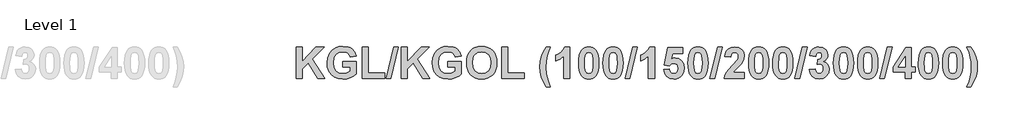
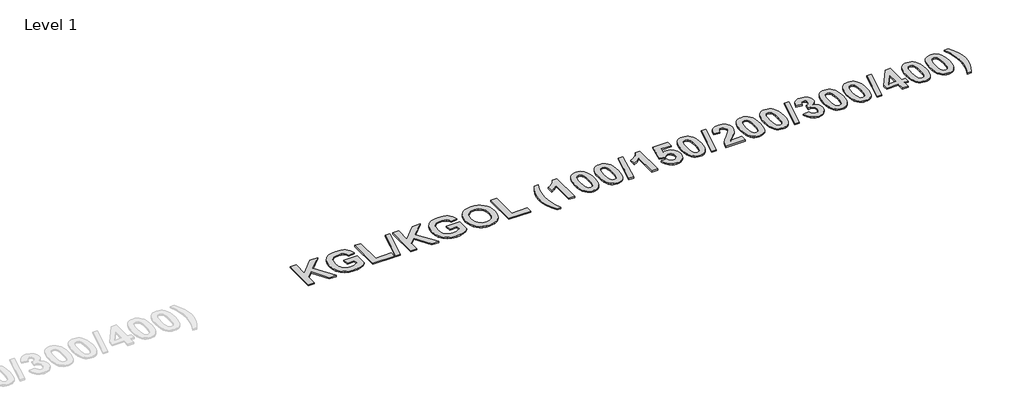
# One storey, part 19 of 42: 1 proxy.
"""IFC4 building model written with IfcOpenShell, lengths in millimetres."""

from ifc_helpers import new_model, si_unit, origin, origin_with_axes, place, context, project, spatial, polyline, outline, extrude, element, save

model = new_model("IFC4")

# Units and contexts
model_context = context("Model", 3, world=origin())
ifc_project = project(units=[si_unit("LENGTHUNIT", "METRE", prefix="MILLI")], contexts=[model_context])

# Site, building, storey
site = spatial("IfcSite", under=ifc_project)
building = spatial("IfcBuilding", under=site)
storey = spatial("IfcBuildingStorey", under=building, Name="Level 1", Elevation=0.0)

# Proxy
placement = place(None, origin())
element("IfcBuildingElementProxy", 1, Name="300mm Arial 2", ObjectType="300mm Arial 2", at=placement, inside=storey, context=model_context, shape_type="SweptSolid", body=[
    extrude(outline(polyline([(-3414.3228423, 4366.2760859), (-3414.3228423, 4621.3409359), (-3365.7390614, 4621.3409359), (-3365.7390614, 4505.0688143), (-3256.299034, 4621.3409359), (-3189.6228554, 4621.3409359), (-3286.157816, 4523.9203335), (-3185.574207, 4366.2760859), (-3242.381805, 4366.2760859), (-3317.7246216, 4491.9739671), (-3365.7390614, 4443.4534463), (-3365.7390614, 4366.2760859), (-3414.3228423, 4366.2760859)])), origin_with_axes(), (0.0, 0.0, 1.0), 10.0),
    extrude(outline(polyline([(-3041.8471884, 4459.3949994), (-3041.8471884, 4503.930132), (-2932.5336812, 4503.930132), (-2932.5336812, 4402.2078406), (-2952.0494318, 4387.2863571), (-2978.7135772, 4374.2784926), (-3009.1417004, 4365.2402013), (-3039.9493844, 4362.2274375), (-3076.7825959, 4366.4184212), (-3108.586627, 4378.9913724), (-3134.2386103, 4399.3532272), (-3152.6156785, 4426.9109219), (-3163.6703865, 4459.434537), (-3167.3552891, 4494.6941528), (-3163.188028, 4532.2153182), (-3150.6862445, 4565.3240895), (-3130.1504243, 4592.6287438), (-3101.8810531, 4612.737558), (-3074.394526, 4622.2265778), (-3040.8982864, 4625.3895843), (-2998.6958712, 4620.2813287), (-2981.479231, 4613.8960092), (-2966.8523025, 4604.9565619), (-2944.9405745, 4580.6172263), (-2932.5336812, 4548.4652645), (-2981.1174622, 4540.3679677), (-2989.2938342, 4557.1714401), (-3002.4361265, 4570.0053393), (-3020.006628, 4578.1421737), (-3041.4676276, 4580.8544518), (-3073.2716587, 4575.5564158), (-3086.4574423, 4568.9338708), (-3097.8324047, 4559.6623078), (-3106.9932625, 4547.7812643), (-3113.5367323, 4533.330278), (-3118.7715082, 4496.718477), (-3113.5683624, 4457.3627677), (-3107.0644301, 4441.9015962), (-3097.9589249, 4429.2515468), (-3086.7421129, 4419.4126195), (-3073.90426, 4412.3848142), (-3043.3654315, 4406.7625701), (-3009.932452, 4412.9304329), (-2981.1174622, 4427.891454), (-2981.1174622, 4459.3949994), (-3041.8471884, 4459.3949994)])), origin_with_axes(), (0.0, 0.0, 1.0), 10.0),
    extrude(outline(polyline([(-2883.9499003, 4366.2760859), (-2883.9499003, 4621.3409359), (-2835.3661193, 4621.3409359), (-2835.3661193, 4410.8112185), (-2705.8093701, 4410.8112185), (-2705.8093701, 4366.2760859), (-2883.9499003, 4366.2760859)])), origin_with_axes(), (0.0, 0.0, 1.0), 10.0),
    extrude(outline(polyline([(-2694.5490667, 4366.2760859), (-2633.8193405, 4621.3409359), (-2596.495863, 4621.3409359), (-2657.2255892, 4366.2760859), (-2694.5490667, 4366.2760859)])), origin_with_axes(), (0.0, 0.0, 1.0), 10.0),
    extrude(outline(polyline([(-2572.2039725, 4366.2760859), (-2572.2039725, 4621.3409359), (-2523.6201916, 4621.3409359), (-2523.6201916, 4505.0688143), (-2414.1801642, 4621.3409359), (-2347.5039856, 4621.3409359), (-2444.0389462, 4523.9203335), (-2343.4553372, 4366.2760859), (-2400.2629352, 4366.2760859), (-2475.6057518, 4491.9739671), (-2523.6201916, 4443.4534463), (-2523.6201916, 4366.2760859), (-2572.2039725, 4366.2760859)])), origin_with_axes(), (0.0, 0.0, 1.0), 10.0),
    extrude(outline(polyline([(-2199.7283186, 4459.3949994), (-2199.7283186, 4503.930132), (-2090.4148114, 4503.930132), (-2090.4148114, 4402.2078406), (-2109.930562, 4387.2863571), (-2136.5947074, 4374.2784926), (-2167.0228306, 4365.2402013), (-2197.8305146, 4362.2274375), (-2234.6637261, 4366.4184212), (-2266.4677572, 4378.9913724), (-2292.1197405, 4399.3532272), (-2310.4968087, 4426.9109219), (-2321.5515167, 4459.434537), (-2325.2364193, 4494.6941528), (-2321.0691582, 4532.2153182), (-2308.5673747, 4565.3240895), (-2288.0315545, 4592.6287438), (-2259.7621833, 4612.737558), (-2232.2756562, 4622.2265778), (-2198.7794166, 4625.3895843), (-2156.5770014, 4620.2813287), (-2139.3603612, 4613.8960092), (-2124.7334327, 4604.9565619), (-2102.8217047, 4580.6172263), (-2090.4148114, 4548.4652645), (-2138.9985924, 4540.3679677), (-2147.1749644, 4557.1714401), (-2160.3172567, 4570.0053393), (-2177.8877582, 4578.1421737), (-2199.3487578, 4580.8544518), (-2231.1527888, 4575.5564158), (-2244.3385725, 4568.9338708), (-2255.7135349, 4559.6623078), (-2264.8743927, 4547.7812643), (-2271.4178625, 4533.330278), (-2276.6526384, 4496.718477), (-2271.4494926, 4457.3627677), (-2264.9455603, 4441.9015962), (-2255.8400551, 4429.2515468), (-2244.6232431, 4419.4126195), (-2231.7853902, 4412.3848142), (-2201.2465617, 4406.7625701), (-2167.8135822, 4412.9304329), (-2138.9985924, 4427.891454), (-2138.9985924, 4459.3949994), (-2199.7283186, 4459.3949994)])), origin_with_axes(), (0.0, 0.0, 1.0), 10.0),
    extrude(outline(polyline([(-2049.9283273, 4492.2270076), (-2047.0658063, 4528.000612), (-2038.4782435, 4557.5114633), (-2028.380345, 4575.9438841), (-2015.1668851, 4592.3994258), (-1999.6918754, 4605.8659263), (-1982.8093278, 4615.3312234), (-1957.6001654, 4622.8749941), (-1928.7851756, 4625.3895843), (-1902.4926834, 4623.2090867), (-1878.9678221, 4616.6675937), (-1858.2105914, 4605.7651054), (-1840.2209915, 4590.5016218), (-1825.6909301, 4571.3555477), (-1815.3123148, 4548.8052877), (-1809.0851456, 4522.8508419), (-1807.0094225, 4493.4922103), (-1809.0693306, 4464.3332434), (-1815.2490547, 4438.5349711), (-1825.5485948, 4416.0973932), (-1839.967951, 4397.0205098), (-1857.8389382, 4381.7985407), (-1878.4933711, 4370.9257056), (-1901.9312498, 4364.4020045), (-1928.1525743, 4362.2274375), (-1954.6506618, 4364.3921201), (-1978.2862284, 4370.886168), (-1999.0592741, 4381.7095811), (-2016.9697988, 4396.8623595), (-2031.389155, 4415.8107457), (-2041.6886952, 4438.0209825), (-2047.8684193, 4463.4930698), (-2049.9283273, 4492.2270076)]), holes=[polyline([(-2001.3445463, 4493.9982913), (-1996.1809381, 4456.2478079), (-1989.7264278, 4441.2749255), (-1980.6901134, 4428.9036161), (-1957.2443272, 4412.2978316), (-1928.2158344, 4406.7625701), (-1899.2506017, 4412.258294), (-1875.9945959, 4428.7454657), (-1867.0689867, 4441.1108446), (-1860.6935516, 4456.2240853), (-1855.5932035, 4494.6941528), (-1860.5591238, 4532.5869715), (-1866.7665242, 4547.4056573), (-1875.4568848, 4559.4725274), (-1898.5784628, 4575.5089707), (-1928.2158344, 4580.8544518), (-1957.9164661, 4575.4457106), (-1981.2278245, 4559.2194868), (-1990.0288903, 4547.0300503), (-1996.3153659, 4532.0967055), (-2001.3445463, 4493.9982913)])]), origin_with_axes(), (0.0, 0.0, 1.0), 10.0),
    extrude(outline(polyline([(-1766.5229384, 4366.2760859), (-1766.5229384, 4621.3409359), (-1717.9391575, 4621.3409359), (-1717.9391575, 4410.8112185), (-1588.3824083, 4410.8112185), (-1588.3824083, 4366.2760859), (-1766.5229384, 4366.2760859)])), origin_with_axes(), (0.0, 0.0, 1.0), 10.0),
    extrude(outline(polyline([(-1377.8526908, 4297.4490629), (-1410.2418781, 4297.4490629), (-1432.9127277, 4337.1210729), (-1449.4315295, 4378.327141), (-1459.513613, 4419.6280993), (-1462.8743075, 4459.5847798), (-1458.7623989, 4506.9824333), (-1446.4266733, 4551.7547913), (-1430.2320796, 4588.0344767), (-1410.2418781, 4621.3409359), (-1377.8526908, 4621.3409359), (-1395.4152848, 4574.1014328), (-1406.4779003, 4534.4847754), (-1412.33737, 4497.6041188), (-1414.2905265, 4458.5726177), (-1409.6092768, 4401.92317), (-1396.7674701, 4346.8552256), (-1377.8526908, 4297.4490629)])), origin_with_axes(), (0.0, 0.0, 1.0), 10.0),
    extrude(outline(polyline([(-1224.0040511, 4366.2760859), (-1272.5878321, 4366.2760859), (-1272.5878321, 4548.5917848), (-1300.6437004, 4524.7110851), (-1333.3175583, 4507.9787804), (-1333.3175583, 4556.5625613), (-1313.8492528, 4565.6482977), (-1292.767814, 4580.3800008), (-1274.3116707, 4599.3975778), (-1262.7192516, 4621.3409359), (-1224.0040511, 4621.3409359), (-1224.0040511, 4366.2760859)])), origin_with_axes(), (0.0, 0.0, 1.0), 10.0),
    extrude(outline(polyline([(-1070.1554115, 4621.3409359), (-1053.0237771, 4619.6961725), (-1037.8769294, 4614.7618822), (-1024.7148683, 4606.5380652), (-1013.5375938, 4595.0247212), (-1002.8822154, 4576.8967398), (-995.2712309, 4553.6367802), (-990.7046401, 4525.2448425), (-989.1824432, 4491.7209266), (-990.7125476, 4458.2286407), (-995.3028609, 4429.8050729), (-1002.9533831, 4406.4502232), (-1013.6641141, 4388.1640914), (-1024.7860359, 4376.8168053), (-1037.9085595, 4368.711601), (-1053.0316846, 4363.8484784), (-1070.1554115, 4362.2274375), (-1087.462988, 4364.0066287), (-1103.0111422, 4369.3442023), (-1116.799874, 4378.2401583), (-1128.8291834, 4390.6944967), (-1138.5850818, 4407.7154258), (-1145.5535806, 4430.311154), (-1149.7346799, 4458.4816813), (-1151.1283797, 4492.2270076), (-1149.5982753, 4525.5532356), (-1145.007962, 4553.8581907), (-1137.3574398, 4577.1418728), (-1126.6467088, 4595.404282), (-1115.524787, 4606.7515681), (-1102.4022635, 4614.8567724), (-1087.2791383, 4619.7198951), (-1070.1554115, 4621.3409359)]), holes=[polyline([(-1070.1554115, 4576.8058034), (-1086.3500051, 4571.4603223), (-1092.6760182, 4563.9877192), (-1097.357268, 4552.2608724), (-1101.2477661, 4528.1113172), (-1102.5445988, 4491.7209266), (-1101.3901014, 4455.8128945), (-1097.9266092, 4433.2369351), (-1092.6997408, 4419.9839375), (-1086.2551149, 4412.044791), (-1070.1554115, 4406.7625701), (-1053.9608178, 4412.1080512), (-1047.6348047, 4419.5806542), (-1042.9535549, 4431.3075011), (-1039.0630568, 4455.330536), (-1037.7662242, 4491.7209266), (-1038.9207216, 4527.5894211), (-1042.3842138, 4550.173288), (-1047.6110821, 4563.4658232), (-1054.055708, 4571.4603223), (-1070.1554115, 4576.8058034)])]), origin_with_axes(), (0.0, 0.0, 1.0), 10.0),
    extrude(outline(polyline([(-875.8202877, 4621.3409359), (-858.6886533, 4619.6961725), (-843.5418056, 4614.7618822), (-830.3797445, 4606.5380652), (-819.20247, 4595.0247212), (-808.5470916, 4576.8967398), (-800.9361071, 4553.6367802), (-796.3695163, 4525.2448425), (-794.8473194, 4491.7209266), (-796.3774238, 4458.2286407), (-800.9677371, 4429.8050729), (-808.6182593, 4406.4502232), (-819.3289903, 4388.1640914), (-830.4509121, 4376.8168053), (-843.5734356, 4368.711601), (-858.6965608, 4363.8484784), (-875.8202877, 4362.2274375), (-893.1278642, 4364.0066287), (-908.6760184, 4369.3442023), (-922.4647502, 4378.2401583), (-934.4940596, 4390.6944967), (-944.249958, 4407.7154258), (-951.2184568, 4430.311154), (-955.3995561, 4458.4816813), (-956.7932559, 4492.2270076), (-955.2631515, 4525.5532356), (-950.6728382, 4553.8581907), (-943.022316, 4577.1418728), (-932.311585, 4595.404282), (-921.1896632, 4606.7515681), (-908.0671397, 4614.8567724), (-892.9440145, 4619.7198951), (-875.8202877, 4621.3409359)]), holes=[polyline([(-875.8202877, 4576.8058034), (-892.0148813, 4571.4603223), (-898.3408944, 4563.9877192), (-903.0221442, 4552.2608724), (-906.9126423, 4528.1113172), (-908.209475, 4491.7209266), (-907.0549776, 4455.8128945), (-903.5914854, 4433.2369351), (-898.364617, 4419.9839375), (-891.9199911, 4412.044791), (-875.8202877, 4406.7625701), (-859.625694, 4412.1080512), (-853.2996809, 4419.5806542), (-848.6184311, 4431.3075011), (-844.727933, 4455.330536), (-843.4311004, 4491.7209266), (-844.5855978, 4527.5894211), (-848.0490899, 4550.173288), (-853.2759583, 4563.4658232), (-859.7205842, 4571.4603223), (-875.8202877, 4576.8058034)])]), origin_with_axes(), (0.0, 0.0, 1.0), 10.0),
    extrude(outline(polyline([(-779.5383676, 4366.2760859), (-718.8086414, 4621.3409359), (-681.4851639, 4621.3409359), (-742.21489, 4366.2760859), (-779.5383676, 4366.2760859)])), origin_with_axes(), (0.0, 0.0, 1.0), 10.0),
    extrude(outline(polyline([(-543.8311178, 4366.2760859), (-592.4148988, 4366.2760859), (-592.4148988, 4548.5917848), (-620.4707671, 4524.7110851), (-653.144625, 4507.9787804), (-653.144625, 4556.5625613), (-633.6763195, 4565.6482977), (-612.5948807, 4580.3800008), (-594.1387374, 4599.3975778), (-582.5463183, 4621.3409359), (-543.8311178, 4621.3409359), (-543.8311178, 4366.2760859)])), origin_with_axes(), (0.0, 0.0, 1.0), 10.0),
    extrude(outline(polyline([(-470.9554464, 4438.0763351), (-426.4203139, 4443.2004058), (-422.2767753, 4428.1286795), (-414.0213281, 4416.5678904), (-402.919175, 4409.2139001), (-390.2355187, 4406.7625701), (-376.0415267, 4409.364143), (-364.2039746, 4417.1688617), (-356.2094755, 4430.2083563), (-353.5446424, 4448.5142568), (-356.0196951, 4465.6735675), (-363.444853, 4477.9302179), (-374.8395842, 4485.2842082), (-389.2233566, 4487.7355383), (-408.0432457, 4482.6747278), (-424.7755504, 4467.4922962), (-466.906798, 4473.7550493), (-438.5662591, 4617.2922875), (-317.1068067, 4617.2922875), (-317.1068067, 4568.7085066), (-399.2817175, 4568.7085066), (-409.0870378, 4522.3388302), (-393.6041207, 4529.7877107), (-377.7732728, 4532.2706708), (-349.6541444, 4526.5219064), (-326.1530055, 4509.2756131), (-310.2588975, 4482.8566007), (-304.9608615, 4449.589679), (-309.3732557, 4420.6639839), (-322.6104382, 4394.9961856), (-335.8278519, 4380.6598583), (-351.3779829, 4370.4196245), (-369.2608313, 4364.2754843), (-389.4763971, 4362.2274375), (-420.481769, 4367.3673232), (-445.1769428, 4382.7869802), (-462.3916061, 4406.8890903), (-470.9554464, 4438.0763351)])), origin_with_axes(), (0.0, 0.0, 1.0), 10.0),
    extrude(outline(polyline([(-195.6473543, 4621.3409359), (-178.51572, 4619.6961725), (-163.3688723, 4614.7618822), (-150.2068112, 4606.5380652), (-139.0295367, 4595.0247212), (-128.3741583, 4576.8967398), (-120.7631738, 4553.6367802), (-116.196583, 4525.2448425), (-114.6743861, 4491.7209266), (-116.2044905, 4458.2286407), (-120.7948038, 4429.8050729), (-128.445326, 4406.4502232), (-139.156057, 4388.1640914), (-150.2779788, 4376.8168053), (-163.4005023, 4368.711601), (-178.5236275, 4363.8484784), (-195.6473543, 4362.2274375), (-212.9549309, 4364.0066287), (-228.5030851, 4369.3442023), (-242.2918169, 4378.2401583), (-254.3211263, 4390.6944967), (-264.0770247, 4407.7154258), (-271.0455235, 4430.311154), (-275.2266228, 4458.4816813), (-276.6203226, 4492.2270076), (-275.0902182, 4525.5532356), (-270.4999049, 4553.8581907), (-262.8493827, 4577.1418728), (-252.1386517, 4595.404282), (-241.0167299, 4606.7515681), (-227.8942064, 4614.8567724), (-212.7710812, 4619.7198951), (-195.6473543, 4621.3409359)]), holes=[polyline([(-195.6473543, 4576.8058034), (-211.841948, 4571.4603223), (-218.1679611, 4563.9877192), (-222.8492109, 4552.2608724), (-226.739709, 4528.1113172), (-228.0365416, 4491.7209266), (-226.8820443, 4455.8128945), (-223.4185521, 4433.2369351), (-218.1916837, 4419.9839375), (-211.7470578, 4412.044791), (-195.6473543, 4406.7625701), (-179.4527607, 4412.1080512), (-173.1267476, 4419.5806542), (-168.4454978, 4431.3075011), (-164.5549997, 4455.330536), (-163.258167, 4491.7209266), (-164.4126644, 4527.5894211), (-167.8761566, 4550.173288), (-173.103025, 4563.4658232), (-179.5476509, 4571.4603223), (-195.6473543, 4576.8058034)])]), origin_with_axes(), (0.0, 0.0, 1.0), 10.0),
    extrude(outline(polyline([(-99.3654343, 4366.2760859), (-38.6357081, 4621.3409359), (-1.3122305, 4621.3409359), (-62.0419567, 4366.2760859), (-99.3654343, 4366.2760859)])), origin_with_axes(), (0.0, 0.0, 1.0), 10.0),
    extrude(outline(polyline([(176.8282996, 4414.8598669), (176.8282996, 4366.2760859), (14.8823631, 4366.2760859), (20.0538788, 4390.7814793), (30.3810953, 4413.942595), (49.5647302, 4440.1243819), (81.3055011, 4473.6917891), (118.8820192, 4514.4313138), (125.9038938, 4529.1392943), (128.2445187, 4543.6574945), (126.2755471, 4557.8040414), (120.3686323, 4568.2340556), (110.9982253, 4574.6628664), (98.6387771, 4576.8058034), (86.3663116, 4574.6944965), (76.8772919, 4568.3605758), (70.4880186, 4557.13981), (67.5147925, 4540.3679677), (18.9310115, 4544.7961769), (27.5343894, 4579.9450874), (35.1572352, 4593.1842468), (44.9941857, 4603.5332089), (69.6181918, 4616.8890042), (99.7141994, 4621.3409359), (131.8503461, 4616.3512931), (156.2687569, 4601.3823644), (171.6884139, 4578.9961854), (176.8282996, 4551.7547913), (171.1981479, 4519.6186446), (153.3587908, 4487.6722782), (123.1520781, 4455.7891719), (95.4125104, 4428.1444945), (86.3030515, 4414.8598669), (176.8282996, 4414.8598669)])), origin_with_axes(), (0.0, 0.0, 1.0), 10.0),
    extrude(outline(polyline([(290.1904552, 4621.3409359), (307.3220895, 4619.6961725), (322.4689372, 4614.7618822), (335.6309983, 4606.5380652), (346.8082728, 4595.0247212), (357.4636512, 4576.8967398), (365.0746358, 4553.6367802), (369.6412265, 4525.2448425), (371.1634234, 4491.7209266), (369.633319, 4458.2286407), (365.0430057, 4429.8050729), (357.3924835, 4406.4502232), (346.6817525, 4388.1640914), (335.5598307, 4376.8168053), (322.4373072, 4368.711601), (307.314182, 4363.8484784), (290.1904552, 4362.2274375), (272.8828786, 4364.0066287), (257.3347244, 4369.3442023), (243.5459926, 4378.2401583), (231.5166832, 4390.6944967), (221.7607848, 4407.7154258), (214.792286, 4430.311154), (210.6111867, 4458.4816813), (209.2174869, 4492.2270076), (210.7475913, 4525.5532356), (215.3379046, 4553.8581907), (222.9884268, 4577.1418728), (233.6991578, 4595.404282), (244.8210796, 4606.7515681), (257.9436031, 4614.8567724), (273.0667283, 4619.7198951), (290.1904552, 4621.3409359)]), holes=[polyline([(290.1904552, 4576.8058034), (273.9958615, 4571.4603223), (267.6698484, 4563.9877192), (262.9885986, 4552.2608724), (259.0981005, 4528.1113172), (257.8012679, 4491.7209266), (258.9557653, 4455.8128945), (262.4192574, 4433.2369351), (267.6461258, 4419.9839375), (274.0907517, 4412.044791), (290.1904552, 4406.7625701), (306.3850488, 4412.1080512), (312.7110619, 4419.5806542), (317.3923117, 4431.3075011), (321.2828098, 4455.330536), (322.5796425, 4491.7209266), (321.4251451, 4527.5894211), (317.9616529, 4550.173288), (312.7347845, 4563.4658232), (306.2901586, 4571.4603223), (290.1904552, 4576.8058034)])]), origin_with_axes(), (0.0, 0.0, 1.0), 10.0),
    extrude(outline(polyline([(484.525579, 4621.3409359), (501.6572133, 4619.6961725), (516.804061, 4614.7618822), (529.9661221, 4606.5380652), (541.1433966, 4595.0247212), (551.798775, 4576.8967398), (559.4097596, 4553.6367802), (563.9763503, 4525.2448425), (565.4985472, 4491.7209266), (563.9684428, 4458.2286407), (559.3781295, 4429.8050729), (551.7276073, 4406.4502232), (541.0168763, 4388.1640914), (529.8949545, 4376.8168053), (516.772431, 4368.711601), (501.6493058, 4363.8484784), (484.525579, 4362.2274375), (467.2180024, 4364.0066287), (451.6698482, 4369.3442023), (437.8811164, 4378.2401583), (425.851807, 4390.6944967), (416.0959086, 4407.7154258), (409.1274098, 4430.311154), (404.9463105, 4458.4816813), (403.5526107, 4492.2270076), (405.0827151, 4525.5532356), (409.6730284, 4553.8581907), (417.3235506, 4577.1418728), (428.0342816, 4595.404282), (439.1562034, 4606.7515681), (452.278727, 4614.8567724), (467.4018521, 4619.7198951), (484.525579, 4621.3409359)]), holes=[polyline([(484.525579, 4576.8058034), (468.3309853, 4571.4603223), (462.0049722, 4563.9877192), (457.3237224, 4552.2608724), (453.4332243, 4528.1113172), (452.1363917, 4491.7209266), (453.2908891, 4455.8128945), (456.7543813, 4433.2369351), (461.9812496, 4419.9839375), (468.4258755, 4412.044791), (484.525579, 4406.7625701), (500.7201726, 4412.1080512), (507.0461858, 4419.5806542), (511.7274355, 4431.3075011), (515.6179336, 4455.330536), (516.9147663, 4491.7209266), (515.7602689, 4527.5894211), (512.2967767, 4550.173288), (507.0699083, 4563.4658232), (500.6252824, 4571.4603223), (484.525579, 4576.8058034)])]), origin_with_axes(), (0.0, 0.0, 1.0), 10.0),
    extrude(outline(polyline([(580.807499, 4366.2760859), (641.5372252, 4621.3409359), (678.8607028, 4621.3409359), (618.1309766, 4366.2760859), (580.807499, 4366.2760859)])), origin_with_axes(), (0.0, 0.0, 1.0), 10.0),
    extrude(outline(polyline([(695.0552964, 4437.5702541), (743.6390774, 4443.2004058), (747.3872401, 4427.5751533), (754.5830801, 4416.1250695), (764.4358456, 4409.1031949), (776.1547849, 4406.7625701), (788.727736, 4409.4432181), (799.1182126, 4417.4851623), (806.0926421, 4430.066021), (808.417452, 4446.3634123), (806.29033, 4461.7830694), (799.9089643, 4473.628529), (790.4594821, 4481.1722997), (779.1280111, 4483.6868899), (759.833671, 4480.0810624), (764.0720998, 4520.1247256), (777.9023461, 4521.8643792), (788.0160596, 4528.0955022), (794.2076449, 4537.9640827), (796.2715067, 4550.616109), (794.729541, 4561.3624238), (790.1036439, 4569.6890386), (782.9157115, 4575.0266122), (773.6876398, 4576.8058034), (764.3014178, 4574.7419416), (756.3859938, 4568.5503562), (750.6214144, 4558.3891976), (747.6877258, 4544.4166161), (699.1039448, 4551.6915312), (704.6629289, 4573.4292939), (712.4834626, 4590.3118414), (723.2060549, 4603.2248158), (737.4712145, 4613.0538587), (754.4644674, 4619.2691666), (773.3713391, 4621.3409359), (804.0208728, 4615.600079), (816.8073269, 4608.4240078), (827.9015724, 4598.3775082), (840.6168589, 4578.3556766), (844.8552877, 4555.8666999), (842.5818767, 4539.921193), (835.7616438, 4525.6758021), (824.3945889, 4513.1305273), (808.4807121, 4502.2853685), (828.3443934, 4494.7336903), (843.7798654, 4481.4411552), (853.695891, 4463.5780756), (857.0012329, 4442.3147639), (851.1417632, 4411.5466175), (833.5633542, 4385.6653162), (821.1268077, 4375.4112443), (807.255047, 4368.0869072), (775.2058829, 4362.2274375), (744.9438176, 4367.4384908), (720.3277189, 4383.0716508), (703.1130556, 4407.1184083), (695.0552964, 4437.5702541)])), origin_with_axes(), (0.0, 0.0, 1.0), 10.0),
    extrude(outline(polyline([(970.3633885, 4621.3409359), (987.4950228, 4619.6961725), (1002.6418705, 4614.7618822), (1015.8039316, 4606.5380652), (1026.9812061, 4595.0247212), (1037.6365845, 4576.8967398), (1045.2475691, 4553.6367802), (1049.8141598, 4525.2448425), (1051.3363567, 4491.7209266), (1049.8062523, 4458.2286407), (1045.215939, 4429.8050729), (1037.5654168, 4406.4502232), (1026.8546858, 4388.1640914), (1015.732764, 4376.8168053), (1002.6102405, 4368.711601), (987.4871153, 4363.8484784), (970.3633885, 4362.2274375), (953.0558119, 4364.0066287), (937.5076577, 4369.3442023), (923.7189259, 4378.2401583), (911.6896165, 4390.6944967), (901.9337181, 4407.7154258), (894.9652193, 4430.311154), (890.78412, 4458.4816813), (889.3904202, 4492.2270076), (890.9205246, 4525.5532356), (895.5108379, 4553.8581907), (903.1613601, 4577.1418728), (913.8720911, 4595.404282), (924.9940129, 4606.7515681), (938.1165365, 4614.8567724), (953.2396616, 4619.7198951), (970.3633885, 4621.3409359)]), holes=[polyline([(970.3633885, 4576.8058034), (954.1687948, 4571.4603223), (947.8427817, 4563.9877192), (943.1615319, 4552.2608724), (939.2710339, 4528.1113172), (937.9742012, 4491.7209266), (939.1286986, 4455.8128945), (942.5921908, 4433.2369351), (947.8190591, 4419.9839375), (954.263685, 4412.044791), (970.3633885, 4406.7625701), (986.5579821, 4412.1080512), (992.8839953, 4419.5806542), (997.565245, 4431.3075011), (1001.4557431, 4455.330536), (1002.7525758, 4491.7209266), (1001.5980784, 4527.5894211), (998.1345862, 4550.173288), (992.9077178, 4563.4658232), (986.4630919, 4571.4603223), (970.3633885, 4576.8058034)])]), origin_with_axes(), (0.0, 0.0, 1.0), 10.0),
    extrude(outline(polyline([(1164.6985123, 4621.3409359), (1181.8301466, 4619.6961725), (1196.9769943, 4614.7618822), (1210.1390554, 4606.5380652), (1221.3163299, 4595.0247212), (1231.9717083, 4576.8967398), (1239.5826929, 4553.6367802), (1244.1492836, 4525.2448425), (1245.6714805, 4491.7209266), (1244.1413761, 4458.2286407), (1239.5510628, 4429.8050729), (1231.9005406, 4406.4502232), (1221.1898096, 4388.1640914), (1210.0678878, 4376.8168053), (1196.9453643, 4368.711601), (1181.8222391, 4363.8484784), (1164.6985123, 4362.2274375), (1147.3909357, 4364.0066287), (1131.8427815, 4369.3442023), (1118.0540497, 4378.2401583), (1106.0247403, 4390.6944967), (1096.2688419, 4407.7154258), (1089.3003431, 4430.311154), (1085.1192438, 4458.4816813), (1083.725544, 4492.2270076), (1085.2556484, 4525.5532356), (1089.8459617, 4553.8581907), (1097.4964839, 4577.1418728), (1108.2072149, 4595.404282), (1119.3291367, 4606.7515681), (1132.4516603, 4614.8567724), (1147.5747854, 4619.7198951), (1164.6985123, 4621.3409359)]), holes=[polyline([(1164.6985123, 4576.8058034), (1148.5039186, 4571.4603223), (1142.1779055, 4563.9877192), (1137.4966557, 4552.2608724), (1133.6061577, 4528.1113172), (1132.309325, 4491.7209266), (1133.4638224, 4455.8128945), (1136.9273146, 4433.2369351), (1142.1541829, 4419.9839375), (1148.5988088, 4412.044791), (1164.6985123, 4406.7625701), (1180.8931059, 4412.1080512), (1187.2191191, 4419.5806542), (1191.9003688, 4431.3075011), (1195.7908669, 4455.330536), (1197.0876996, 4491.7209266), (1195.9332022, 4527.5894211), (1192.46971, 4550.173288), (1187.2428416, 4563.4658232), (1180.7982157, 4571.4603223), (1164.6985123, 4576.8058034)])]), origin_with_axes(), (0.0, 0.0, 1.0), 10.0),
    extrude(outline(polyline([(1260.9804323, 4366.2760859), (1321.7101585, 4621.3409359), (1359.0336361, 4621.3409359), (1298.3039099, 4366.2760859), (1260.9804323, 4366.2760859)])), origin_with_axes(), (0.0, 0.0, 1.0), 10.0),
    extrude(outline(polyline([(1464.2984948, 4366.2760859), (1464.2984948, 4418.9085153), (1367.1309329, 4418.9085153), (1367.1309329, 4459.205219), (1470.7510282, 4617.2922875), (1512.8822757, 4617.2922875), (1512.8822757, 4459.3949994), (1545.271463, 4459.3949994), (1545.271463, 4418.9085153), (1512.8822757, 4418.9085153), (1512.8822757, 4366.2760859), (1464.2984948, 4366.2760859)]), holes=[polyline([(1464.2984948, 4459.3949994), (1464.2984948, 4542.2657716), (1410.021302, 4459.3949994), (1464.2984948, 4459.3949994)])]), origin_with_axes(), (0.0, 0.0, 1.0), 10.0),
    extrude(outline(polyline([(1650.5363218, 4621.3409359), (1667.6679561, 4619.6961725), (1682.8148038, 4614.7618822), (1695.9768649, 4606.5380652), (1707.1541394, 4595.0247212), (1717.8095178, 4576.8967398), (1725.4205024, 4553.6367802), (1729.9870931, 4525.2448425), (1731.50929, 4491.7209266), (1729.9791856, 4458.2286407), (1725.3888723, 4429.8050729), (1717.7383501, 4406.4502232), (1707.0276191, 4388.1640914), (1695.9056973, 4376.8168053), (1682.7831738, 4368.711601), (1667.6600486, 4363.8484784), (1650.5363218, 4362.2274375), (1633.2287452, 4364.0066287), (1617.680591, 4369.3442023), (1603.8918592, 4378.2401583), (1591.8625498, 4390.6944967), (1582.1066515, 4407.7154258), (1575.1381526, 4430.311154), (1570.9570533, 4458.4816813), (1569.5633535, 4492.2270076), (1571.0934579, 4525.5532356), (1575.6837712, 4553.8581907), (1583.3342934, 4577.1418728), (1594.0450244, 4595.404282), (1605.1669462, 4606.7515681), (1618.2894698, 4614.8567724), (1633.4125949, 4619.7198951), (1650.5363218, 4621.3409359)]), holes=[polyline([(1650.5363218, 4576.8058034), (1634.3417281, 4571.4603223), (1628.015715, 4563.9877192), (1623.3344652, 4552.2608724), (1619.4439672, 4528.1113172), (1618.1471345, 4491.7209266), (1619.3016319, 4455.8128945), (1622.7651241, 4433.2369351), (1627.9919924, 4419.9839375), (1634.4366183, 4412.044791), (1650.5363218, 4406.7625701), (1666.7309154, 4412.1080512), (1673.0569286, 4419.5806542), (1677.7381783, 4431.3075011), (1681.6286764, 4455.330536), (1682.9255091, 4491.7209266), (1681.7710117, 4527.5894211), (1678.3075195, 4550.173288), (1673.0806511, 4563.4658232), (1666.6360252, 4571.4603223), (1650.5363218, 4576.8058034)])]), origin_with_axes(), (0.0, 0.0, 1.0), 10.0),
    extrude(outline(polyline([(1844.8714456, 4621.3409359), (1862.0030799, 4619.6961725), (1877.1499276, 4614.7618822), (1890.3119887, 4606.5380652), (1901.4892632, 4595.0247212), (1912.1446416, 4576.8967398), (1919.7556262, 4553.6367802), (1924.3222169, 4525.2448425), (1925.8444138, 4491.7209266), (1924.3143094, 4458.2286407), (1919.7239961, 4429.8050729), (1912.073474, 4406.4502232), (1901.3627429, 4388.1640914), (1890.2408211, 4376.8168053), (1877.1182976, 4368.711601), (1861.9951724, 4363.8484784), (1844.8714456, 4362.2274375), (1827.563869, 4364.0066287), (1812.0157148, 4369.3442023), (1798.226983, 4378.2401583), (1786.1976736, 4390.6944967), (1776.4417753, 4407.7154258), (1769.4732764, 4430.311154), (1765.2921771, 4458.4816813), (1763.8984773, 4492.2270076), (1765.4285817, 4525.5532356), (1770.018895, 4553.8581907), (1777.6694172, 4577.1418728), (1788.3801482, 4595.404282), (1799.50207, 4606.7515681), (1812.6245936, 4614.8567724), (1827.7477187, 4619.7198951), (1844.8714456, 4621.3409359)]), holes=[polyline([(1844.8714456, 4576.8058034), (1828.6768519, 4571.4603223), (1822.3508388, 4563.9877192), (1817.669589, 4552.2608724), (1813.779091, 4528.1113172), (1812.4822583, 4491.7209266), (1813.6367557, 4455.8128945), (1817.1002479, 4433.2369351), (1822.3271162, 4419.9839375), (1828.7717421, 4412.044791), (1844.8714456, 4406.7625701), (1861.0660392, 4412.1080512), (1867.3920524, 4419.5806542), (1872.0733021, 4431.3075011), (1875.9638002, 4455.330536), (1877.2606329, 4491.7209266), (1876.1061355, 4527.5894211), (1872.6426433, 4550.173288), (1867.4157749, 4563.4658232), (1860.971149, 4571.4603223), (1844.8714456, 4576.8058034)])]), origin_with_axes(), (0.0, 0.0, 1.0), 10.0),
    extrude(outline(polyline([(1958.2336011, 4297.4490629), (1976.2311085, 4343.4391785), (1985.9099086, 4380.3514652), (1992.5205924, 4420.0471977), (1994.6714368, 4458.5726177), (1992.7261878, 4497.6041188), (1986.8904407, 4534.4847754), (1975.8357327, 4574.1014328), (1958.2336011, 4621.3409359), (1990.6227884, 4621.3409359), (2012.819187, 4584.0016433), (2029.4328791, 4544.4798762), (2039.7996331, 4503.5822012), (2043.2552178, 4462.1151851), (2040.487587, 4425.6140892), (2032.1846948, 4386.5825881), (2015.468205, 4341.7153399), (1990.6227884, 4297.4490629), (1958.2336011, 4297.4490629)])), origin_with_axes(), (0.0, 0.0, 1.0), 10.0),
])

save(model, "model.ifc")
